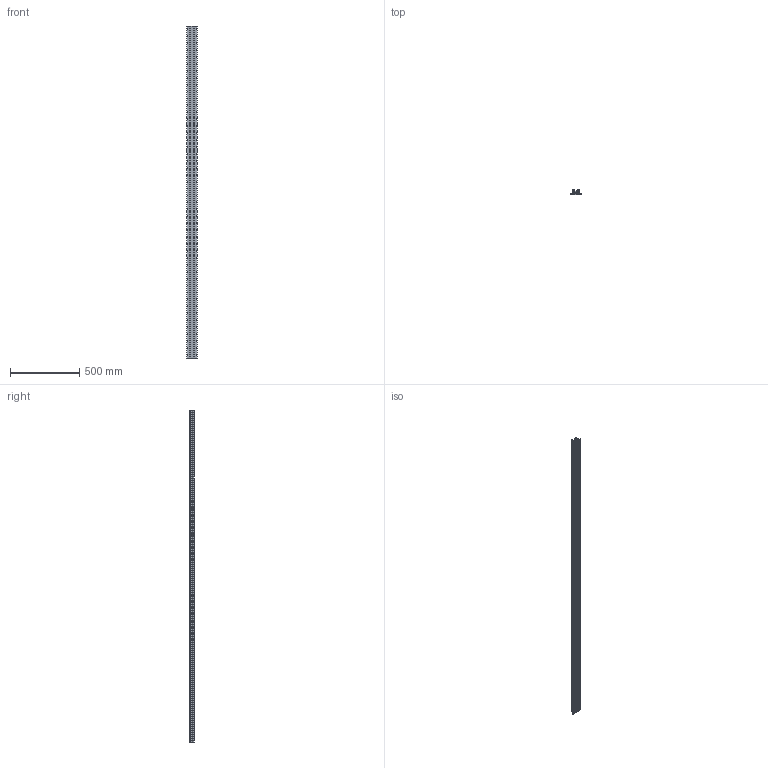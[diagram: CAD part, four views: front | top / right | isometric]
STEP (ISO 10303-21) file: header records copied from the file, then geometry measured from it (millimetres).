
FILE_DESCRIPTION (( 'STEP AP203' ), '1' );
FILE_NAME ('LFS-8-7_-_L=2396.step', '2006-12-18T13:28:21', ( ' ' ), ( ' ' ), 'SwSTEP 2.0', 'SolidWorks 2006089', '' );
FILE_SCHEMA (( 'CONFIG_CONTROL_DESIGN' ));
Length unit declared in the file: millimetre
Products named in the file (1): LFS-8-7_-_L=2396
Bounding box: 78 x 36 x 2396 mm (x, y, z)
Volume: 2073118.9 mm3; surface area: 1332069.6 mm2
Topology: 3 solids, 3 shells, 559 faces, 1755 edges, 1106 vertices
Faces by surface type: plane 311, cylinder 248
Entity records: 19758 total; most frequent: CARTESIAN_POINT 4573, ORIENTED_EDGE 3510, DIRECTION 2987, EDGE_CURVE 1755, VERTEX_POINT 1106, AXIS2_PLACEMENT_3D 1056, VECTOR 875, LINE 875
